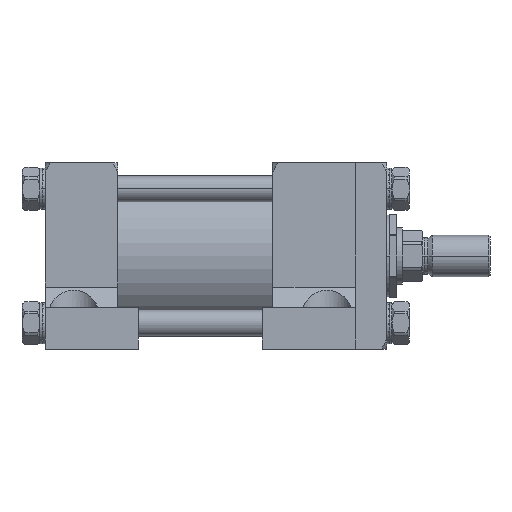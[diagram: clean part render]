
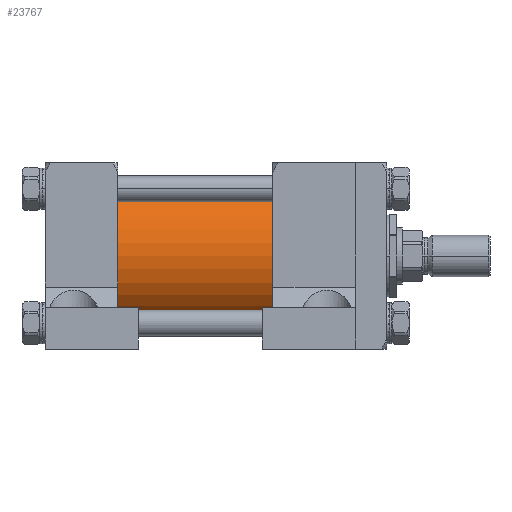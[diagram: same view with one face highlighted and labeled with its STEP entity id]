
A CAD part, front view. The second image highlights one B-rep face of the part: STEP entity #23767.
In plain terms, the highlighted cylindrical face has radius 47.625 mm (diameter 95.25 mm), a partial arc.
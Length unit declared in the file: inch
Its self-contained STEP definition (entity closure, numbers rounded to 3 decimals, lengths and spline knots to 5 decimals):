
#127 = LINE ( 'NONE', #30018, #8480 ) ;
#5368 = DIRECTION ( 'NONE',  ( 1., 0., 0. ) ) ;
#8431 = EDGE_CURVE ( 'NONE', #45981, #60754, #127, .T. ) ;
#8480 = VECTOR ( 'NONE', #5368, 39.37008 ) ;
#9853 = ORIENTED_EDGE ( 'NONE', *, *, #8431, .F. ) ;
#9945 = CIRCLE ( 'NONE', #43024, 1.875 ) ;
#10043 = AXIS2_PLACEMENT_3D ( 'NONE', #24971, #35959, #25927 ) ;
#10843 = CARTESIAN_POINT ( 'NONE',  ( -7.625, 0., 0. ) ) ;
#11164 = DIRECTION ( 'NONE',  ( 1., 0., 0. ) ) ;
#12396 = VECTOR ( 'NONE', #32589, 39.37008 ) ;
#12911 = AXIS2_PLACEMENT_3D ( 'NONE', #40479, #35301, #30441 ) ;
#13213 = CARTESIAN_POINT ( 'NONE',  ( -3.375, 0., -1.875 ) ) ;
#15590 = FACE_OUTER_BOUND ( 'NONE', #37872, .T. ) ;
#15743 = DIRECTION ( 'NONE',  ( 0., 1., 0. ) ) ;
#18955 = EDGE_CURVE ( 'NONE', #45981, #28182, #9945, .T. ) ;
#20668 = EDGE_CURVE ( 'NONE', #60754, #48024, #43926, .T. ) ;
#20781 = CYLINDRICAL_SURFACE ( 'NONE', #10043, 1.875 ) ;
#21551 = ORIENTED_EDGE ( 'NONE', *, *, #18955, .T. ) ;
#23767 = ADVANCED_FACE ( 'NONE', ( #15590 ), #20781, .T. ) ;
#24971 = CARTESIAN_POINT ( 'NONE',  ( -7.625, 0., 0. ) ) ;
#25927 = DIRECTION ( 'NONE',  ( 0., 0., -1. ) ) ;
#28182 = VERTEX_POINT ( 'NONE', #54931 ) ;
#30018 = CARTESIAN_POINT ( 'NONE',  ( -7.625, 0., 1.875 ) ) ;
#30441 = DIRECTION ( 'NONE',  ( 0., 1., 0. ) ) ;
#31023 = CARTESIAN_POINT ( 'NONE',  ( -7.625, 0., 1.875 ) ) ;
#32589 = DIRECTION ( 'NONE',  ( 1., 0., 0. ) ) ;
#34608 = ORIENTED_EDGE ( 'NONE', *, *, #43101, .T. ) ;
#35301 = DIRECTION ( 'NONE',  ( 1., 0., 0. ) ) ;
#35959 = DIRECTION ( 'NONE',  ( 1., 0., 0. ) ) ;
#37719 = CARTESIAN_POINT ( 'NONE',  ( -3.375, 0., 1.875 ) ) ;
#37872 = EDGE_LOOP ( 'NONE', ( #9853, #21551, #34608, #46512 ) ) ;
#40479 = CARTESIAN_POINT ( 'NONE',  ( -3.375, 0., 0. ) ) ;
#43024 = AXIS2_PLACEMENT_3D ( 'NONE', #10843, #11164, #15743 ) ;
#43101 = EDGE_CURVE ( 'NONE', #28182, #48024, #46814, .T. ) ;
#43926 = CIRCLE ( 'NONE', #12911, 1.875 ) ;
#45981 = VERTEX_POINT ( 'NONE', #31023 ) ;
#46512 = ORIENTED_EDGE ( 'NONE', *, *, #20668, .F. ) ;
#46814 = LINE ( 'NONE', #56540, #12396 ) ;
#48024 = VERTEX_POINT ( 'NONE', #13213 ) ;
#54931 = CARTESIAN_POINT ( 'NONE',  ( -7.625, 0., -1.875 ) ) ;
#56540 = CARTESIAN_POINT ( 'NONE',  ( -7.625, 0., -1.875 ) ) ;
#60754 = VERTEX_POINT ( 'NONE', #37719 ) ;
